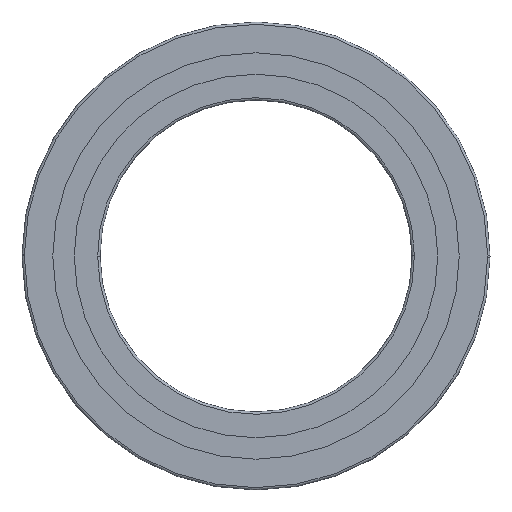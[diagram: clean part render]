
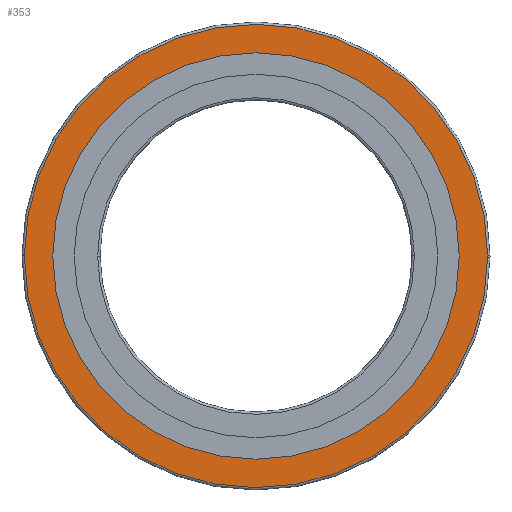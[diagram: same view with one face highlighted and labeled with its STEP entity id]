
A CAD part, front view. The second image highlights one B-rep face of the part: STEP entity #353.
In plain terms, the highlighted planar face has unit normal (0, -1, 0).
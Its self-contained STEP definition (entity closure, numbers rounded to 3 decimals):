
#311=VERTEX_POINT('',#721);
#315=EDGE_CURVE('',#493,#347,#725,.T.);
#341=EDGE_CURVE('',#583,#493,#756,.T.);
#347=VERTEX_POINT('',#763);
#353=ADVANCED_FACE('',(#770,#771),#772,.F.);
#361=EDGE_CURVE('',#347,#465,#781,.T.);
#465=VERTEX_POINT('',#900);
#467=VERTEX_POINT('',#902);
#491=EDGE_CURVE('',#465,#583,#928,.T.);
#493=VERTEX_POINT('',#930);
#547=EDGE_CURVE('',#311,#467,#990,.T.);
#583=VERTEX_POINT('',#1028);
#591=EDGE_CURVE('',#467,#311,#1038,.T.);
#721=CARTESIAN_POINT('',(52.1,0.0,0.0));
#725=CIRCLE('',#1191,59.4);
#756=CIRCLE('',#1229,59.4);
#763=CARTESIAN_POINT('',(59.4,0.0,0.0));
#770=FACE_OUTER_BOUND('',#1243,.T.);
#771=FACE_BOUND('',#1244,.T.);
#772=PLANE('',#1245);
#781=CIRCLE('',#1255,59.4);
#900=CARTESIAN_POINT('',(-59.399,0.0,0.369));
#902=CARTESIAN_POINT('',(-52.1,0.0,0.0));
#928=CIRCLE('',#1443,59.4);
#930=CARTESIAN_POINT('',(59.399,0.0,-0.369));
#990=CIRCLE('',#1515,52.1);
#1028=CARTESIAN_POINT('',(-59.4,0.0,0.0));
#1038=CIRCLE('',#1579,52.1);
#1191=AXIS2_PLACEMENT_3D('',#1711,#1712,#1713);
#1229=AXIS2_PLACEMENT_3D('',#1767,#1768,#1769);
#1243=EDGE_LOOP('',(#1787,#1788,#1789,#1790));
#1244=EDGE_LOOP('',(#1791,#1792));
#1245=AXIS2_PLACEMENT_3D('',#1793,#1794,#1795);
#1255=AXIS2_PLACEMENT_3D('',#1804,#1805,#1806);
#1443=AXIS2_PLACEMENT_3D('',#2020,#2021,#2022);
#1515=AXIS2_PLACEMENT_3D('',#2090,#2091,#2092);
#1579=AXIS2_PLACEMENT_3D('',#2151,#2152,#2153);
#1711=CARTESIAN_POINT('',(0.0,0.0,0.0));
#1712=DIRECTION('',(0.0,-1.0,0.0));
#1713=DIRECTION('',(-1.0,0.0,0.0));
#1767=CARTESIAN_POINT('',(0.0,0.0,0.0));
#1768=DIRECTION('',(0.0,-1.0,0.0));
#1769=DIRECTION('',(-1.0,0.0,0.0));
#1787=ORIENTED_EDGE('',*,*,#361,.T.);
#1788=ORIENTED_EDGE('',*,*,#491,.T.);
#1789=ORIENTED_EDGE('',*,*,#341,.T.);
#1790=ORIENTED_EDGE('',*,*,#315,.T.);
#1791=ORIENTED_EDGE('',*,*,#591,.F.);
#1792=ORIENTED_EDGE('',*,*,#547,.F.);
#1793=CARTESIAN_POINT('',(0.0,0.0,0.0));
#1794=DIRECTION('',(0.0,1.0,0.0));
#1795=DIRECTION('',(1.0,0.0,-0.0));
#1804=CARTESIAN_POINT('',(0.0,0.0,0.0));
#1805=DIRECTION('',(0.0,-1.0,0.0));
#1806=DIRECTION('',(1.0,0.0,0.0));
#2020=CARTESIAN_POINT('',(0.0,0.0,0.0));
#2021=DIRECTION('',(0.0,-1.0,0.0));
#2022=DIRECTION('',(1.0,0.0,0.0));
#2090=CARTESIAN_POINT('',(0.0,0.0,0.0));
#2091=DIRECTION('',(0.0,-1.0,0.0));
#2092=DIRECTION('',(1.0,0.0,0.0));
#2151=CARTESIAN_POINT('',(0.0,0.0,0.0));
#2152=DIRECTION('',(0.0,-1.0,0.0));
#2153=DIRECTION('',(-1.0,0.0,0.0));
